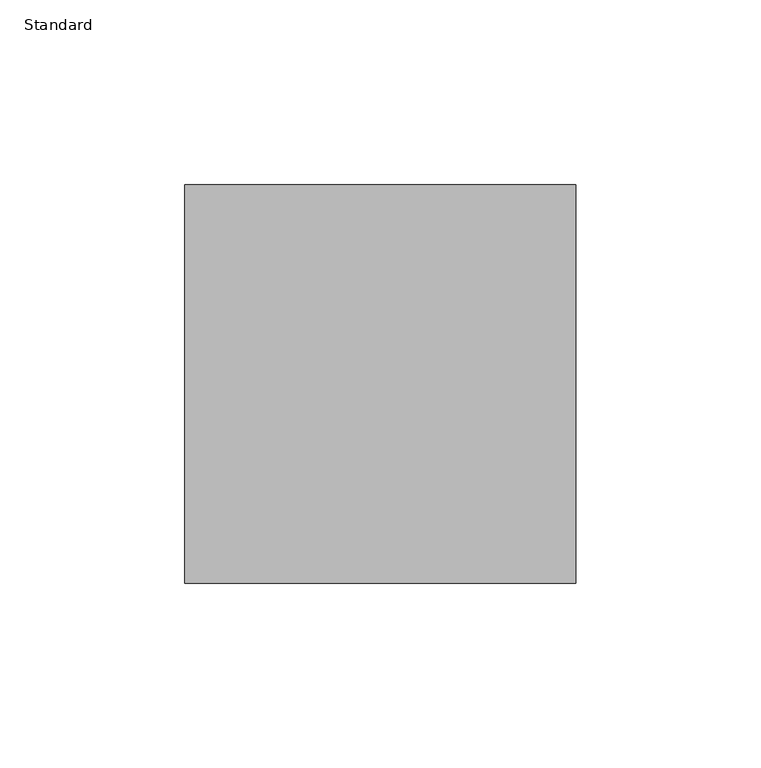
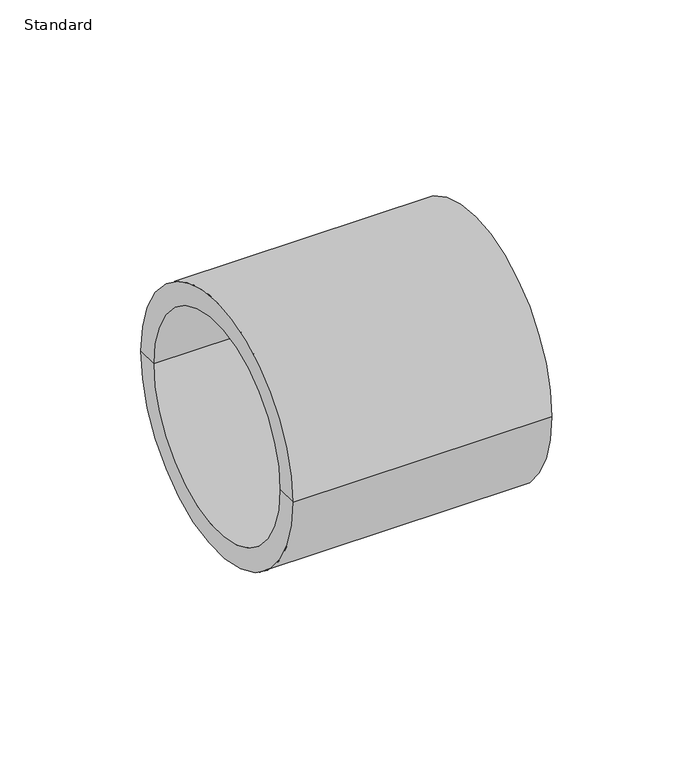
"""IFC4 building model written with IfcOpenShell, lengths in millimetres: pipe fitting geometry, Durapipe_PipeFitting_PVC_Socket : Standard."""

from ifc_helpers import new_model, si_unit, frame, origin, place, context, project, spatial, polyline, circle_curve, source, transform, mapped, element, save
from ifc_brep_helpers import plane_surface, cylinder_surface, revolved_surface, advanced_brep


def standard_4a92fde6(model_context):
    return source(origin(), model_context, "Body", "AdvancedBrep", [
        advanced_brep(
        [(-53.0, -54.0, 0.0), (-53.0, 54.0, 0.0), (53.0, 54.0, 0.0), (53.0, -54.0, 0.0), (-53.0, -45.0, 0.0), (-53.0, 45.0, 0.0), (2.0, -41.0, 0.0), (2.0, 41.0, 0.0), (-2.0, 41.0, 0.0), (-2.0, -41.0, 0.0), (53.0, 45.0, 0.0), (53.0, -45.0, 0.0), (-2.0, -45.0, 0.0), (-2.0, 45.0, 0.0), (2.0, -45.0, 0.0), (2.0, 45.0, 0.0)],
        [
            (0, 1, circle_curve(frame((-53.0, 0.0, 0.0), z_axis=(1.0, 0.0, 0.0), x_axis=(0.0, 1.0, 0.0)), 54.0)),
            (1, 2),
            (2, 3, circle_curve(frame((53.0, 0.0, 0.0), z_axis=(-1.0, 0.0, 0.0), x_axis=(0.0, 1.0, 0.0)), 54.0)),
            (3, 0),
            (1, 0, circle_curve(frame((-53.0, 0.0, 0.0), z_axis=(1.0, 0.0, 0.0), x_axis=(0.0, 1.0, 0.0)), 54.0)),
            (3, 2, circle_curve(frame((53.0, 0.0, 0.0), z_axis=(-1.0, 0.0, 0.0), x_axis=(0.0, 1.0, 0.0)), 54.0)),
            (4, 5, circle_curve(frame((-53.0, 0.0, 0.0), z_axis=(1.0, 0.0, 0.0), x_axis=(0.0, 1.0, 0.0)), 45.0)),
            (5, 1),
            (0, 4),
            (5, 4, circle_curve(frame((-53.0, 0.0, 0.0), z_axis=(1.0, 0.0, 0.0), x_axis=(0.0, 1.0, 0.0)), 45.0)),
            (6, 7, circle_curve(frame((2.0, 0.0, 0.0), z_axis=(1.0, 0.0, 0.0), x_axis=(0.0, 1.0, 0.0)), 41.0)),
            (7, 8),
            (8, 9, circle_curve(frame((-2.0, 0.0, 0.0), z_axis=(-1.0, 0.0, 0.0), x_axis=(0.0, 1.0, 0.0)), 41.0)),
            (9, 6),
            (7, 6, circle_curve(frame((2.0, 0.0, 0.0), z_axis=(1.0, 0.0, 0.0), x_axis=(0.0, 1.0, 0.0)), 41.0)),
            (9, 8, circle_curve(frame((-2.0, 0.0, 0.0), z_axis=(-1.0, 0.0, 0.0), x_axis=(0.0, 1.0, 0.0)), 41.0)),
            (2, 10),
            (10, 11, circle_curve(frame((53.0, 0.0, 0.0), z_axis=(-1.0, 0.0, 0.0), x_axis=(0.0, 1.0, 0.0)), 45.0)),
            (11, 3),
            (11, 10, circle_curve(frame((53.0, 0.0, 0.0), z_axis=(-1.0, 0.0, 0.0), x_axis=(0.0, 1.0, 0.0)), 45.0)),
            (12, 13, circle_curve(frame((-2.0, 0.0, 0.0), z_axis=(1.0, 0.0, 0.0), x_axis=(0.0, 1.0, 0.0)), 45.0)),
            (13, 5),
            (4, 12),
            (13, 12, circle_curve(frame((-2.0, 0.0, 0.0), z_axis=(1.0, 0.0, 0.0), x_axis=(0.0, 1.0, 0.0)), 45.0)),
            (8, 13),
            (12, 9),
            (14, 15, circle_curve(frame((2.0, 0.0, 0.0), z_axis=(1.0, 0.0, 0.0), x_axis=(0.0, 1.0, 0.0)), 45.0)),
            (15, 7),
            (6, 14),
            (15, 14, circle_curve(frame((2.0, 0.0, 0.0), z_axis=(1.0, 0.0, 0.0), x_axis=(0.0, 1.0, 0.0)), 45.0)),
            (10, 15),
            (14, 11),
        ],
        [
            cylinder_surface(frame((-53.0, 0.0, 0.0), z_axis=(-1.0, 0.0, 0.0), x_axis=(0.0, 1.0, 0.0)), 54.0),
            plane_surface(frame((-53.0, 0.0, 0.0), z_axis=(-1.0, 0.0, 0.0), x_axis=(0.0, 1.0, 0.0))),
            revolved_surface(polyline([(-2.0, 41.0, 0.0), (2.0, 41.0, 0.0)]), (-53.0, 0.0, 0.0), (-1.0, 0.0, 0.0)),
            plane_surface(frame((53.0, 0.0, 0.0), z_axis=(1.0, 0.0, 0.0), x_axis=(0.0, 1.0, 0.0))),
            revolved_surface(polyline([(-53.0, 45.0, 0.0), (-2.0, 45.0, 0.0)]), (-53.0, 0.0, 0.0), (-1.0, 0.0, 0.0)),
            plane_surface(frame((-2.0, 0.0, 0.0), z_axis=(-1.0, 0.0, 0.0), x_axis=(0.0, 1.0, 0.0))),
            plane_surface(frame((2.0, 0.0, 0.0), z_axis=(1.0, 0.0, 0.0), x_axis=(0.0, 1.0, 0.0))),
            revolved_surface(polyline([(2.0, 45.0, 0.0), (53.0, 45.0, 0.0)]), (-53.0, 0.0, 0.0), (-1.0, 0.0, 0.0)),
        ],
        [
            (0, [[1, 2, 3, 4]]),
            (0, [[5, -4, 6, -2]]),
            (1, [[7, 8, -1, 9]]),
            (1, [[10, -9, -5, -8]]),
            (2, [[11, 12, 13, 14]]),
            (2, [[15, -14, 16, -12]]),
            (3, [[-3, 17, 18, 19]]),
            (3, [[-6, -19, 20, -17]]),
            (4, [[21, 22, -7, 23]]),
            (4, [[24, -23, -10, -22]]),
            (5, [[-13, 25, -21, 26]]),
            (5, [[-16, -26, -24, -25]]),
            (6, [[27, 28, -11, 29]]),
            (6, [[30, -29, -15, -28]]),
            (7, [[-18, 31, -27, 32]]),
            (7, [[-20, -32, -30, -31]]),
        ],
    ),
    ])


if __name__ == "__main__":
    model = new_model("IFC4")
    model_context = context("Model", 3, world=origin())
    ifc_project = project(units=[si_unit("LENGTHUNIT", "METRE", prefix="MILLI")], contexts=[model_context])
    site = spatial("IfcSite", under=ifc_project)
    building = spatial("IfcBuilding", under=site)
    placement = place(None, origin())
    standard_shape = standard_4a92fde6(model_context)
    element("IfcPipeFitting", 1, ObjectType="Durapipe_PipeFitting_PVC_Socket : Standard", at=placement, inside=building, context=model_context, shape_type="MappedRepresentation", body=[
        mapped(standard_shape, transform((0.0, 0.0, 0.0), x_axis=(1.0, 0.0, 0.0), y_axis=(0.0, 1.0, 0.0), z_axis=(0.0, 0.0, 1.0))),
    ])
    save(model, "model.ifc")
